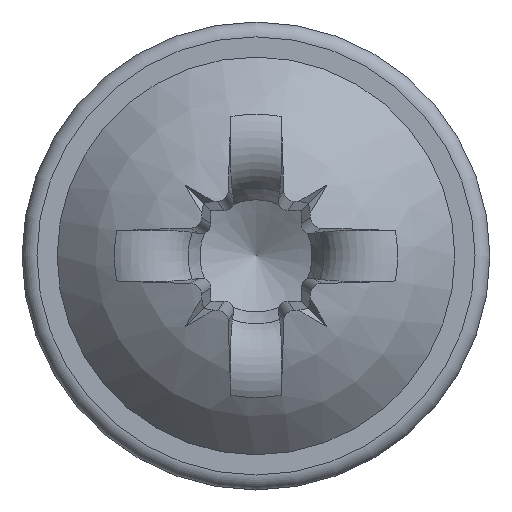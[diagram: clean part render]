
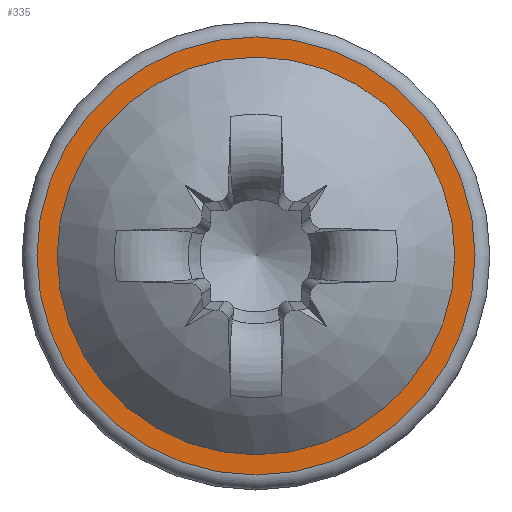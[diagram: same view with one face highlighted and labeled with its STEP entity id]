
A CAD part, top view. The second image highlights one B-rep face of the part: STEP entity #335.
In plain terms, the highlighted planar face has unit normal (0, 0, 1).
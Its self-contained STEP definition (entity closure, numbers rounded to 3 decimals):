
#97=PLANE('',#1980);
#309=FACE_BOUND('',#572,.T.);
#310=FACE_BOUND('',#573,.T.);
#335=ADVANCED_FACE('',(#309,#310),#97,.F.);
#572=EDGE_LOOP('',(#826));
#573=EDGE_LOOP('',(#827));
#686=CIRCLE('',#1938,2.338);
#721=CIRCLE('',#1979,2.575);
#826=ORIENTED_EDGE('',*,*,#1579,.T.);
#827=ORIENTED_EDGE('',*,*,#1528,.F.);
#1342=VERTEX_POINT('',#3939);
#1391=VERTEX_POINT('',#4249);
#1528=EDGE_CURVE('',#1342,#1342,#686,.T.);
#1579=EDGE_CURVE('',#1391,#1391,#721,.T.);
#1938=AXIS2_PLACEMENT_3D('',#3938,#2050,#2051);
#1979=AXIS2_PLACEMENT_3D('',#4248,#2133,#2134);
#1980=AXIS2_PLACEMENT_3D('',#4250,#2135,#2136);
#2050=DIRECTION('',(0.,0.,1.));
#2051=DIRECTION('',(1.,0.,0.));
#2133=DIRECTION('',(0.,0.,1.));
#2134=DIRECTION('',(-1.,0.,0.));
#2135=DIRECTION('',(0.,0.,-1.));
#2136=DIRECTION('',(-1.,0.,0.));
#3938=CARTESIAN_POINT('',(0.,0.,0.7));
#3939=CARTESIAN_POINT('',(2.338,0.,0.7));
#4248=CARTESIAN_POINT('',(0.,0.,0.7));
#4249=CARTESIAN_POINT('',(-2.575,0.,0.7));
#4250=CARTESIAN_POINT('',(0.,2.75,0.7));
